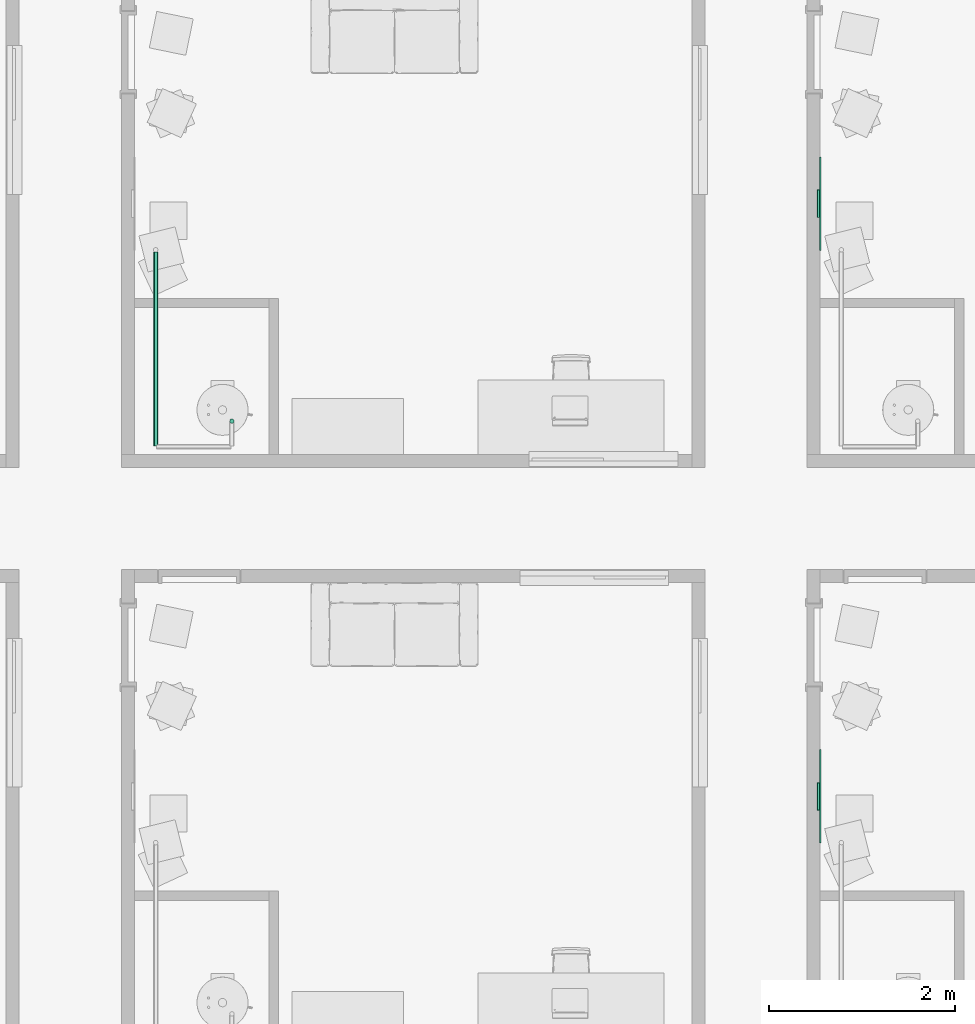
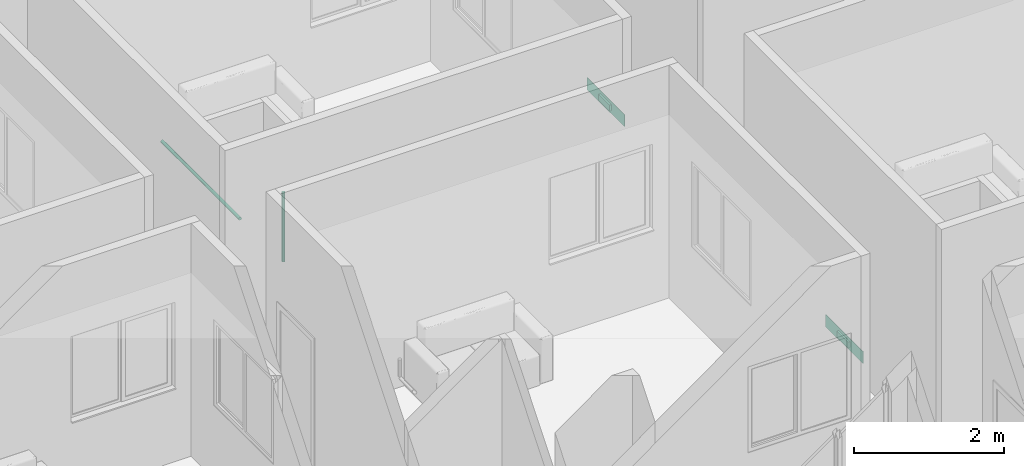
# One storey, part 23 of 71: 2 air terminals, 2 pipe segments.
"""IFC4 building model written with IfcOpenShell, lengths in centimetres."""

from ifc_helpers import new_model, entity, si_unit, converted_unit, derived_unit, direction, frame, origin, place, context, subcontext, project, spatial, arc, indexed_curve, outline, extrude, source, transform, mapped, material, constituent, constituent_set, type_object, type_shapes, element, save


model = new_model("IFC4")

# Units and contexts
model_context = context("Model", 3, precision=0.001, world=origin(), true_north=direction((6.123233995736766e-17, 1.0)))
body_context = subcontext(model_context, "Body", "Model", "MODEL_VIEW")
ifc_project = project(units=[si_unit("LENGTHUNIT", "METRE", prefix="CENTI"), si_unit("AREAUNIT", "SQUARE_METRE"), si_unit("VOLUMEUNIT", "CUBIC_METRE"), derived_unit("THERMALTRANSMITTANCEUNIT", [(si_unit("MASSUNIT", "GRAM", prefix="KILO"), 1), (si_unit("THERMODYNAMICTEMPERATUREUNIT", "KELVIN"), -1), (si_unit("TIMEUNIT", "SECOND"), -3)]), converted_unit("PLANEANGLEUNIT", "DEGREE", entity("IfcPlaneAngleMeasure", 0.017453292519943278), si_unit("PLANEANGLEUNIT", "RADIAN"), dimensions=[0, 0, 0, 0, 0, 0, 0]), derived_unit("MASSDENSITYUNIT", [(si_unit("MASSUNIT", "GRAM", prefix="KILO"), 1), (si_unit("LENGTHUNIT", "METRE"), -3)]), derived_unit("VAPORPERMEABILITYUNIT", [(si_unit("LENGTHUNIT", "METRE"), -1), (si_unit("TIMEUNIT", "SECOND"), 1)]), derived_unit("USERDEFINED", [(si_unit("MASSUNIT", "GRAM", prefix="KILO"), 1), (si_unit("TIMEUNIT", "SECOND"), -3), (si_unit("LENGTHUNIT", "METRE"), 3), (si_unit("ELECTRICCURRENTUNIT", "AMPERE"), -2)]), derived_unit("SPECIFICHEATCAPACITYUNIT", [(si_unit("THERMODYNAMICTEMPERATUREUNIT", "KELVIN"), -1), (si_unit("LENGTHUNIT", "METRE"), 2), (si_unit("TIMEUNIT", "SECOND"), -2)]), derived_unit("THERMALCONDUCTANCEUNIT", [(si_unit("MASSUNIT", "GRAM", prefix="KILO"), 1), (si_unit("THERMODYNAMICTEMPERATUREUNIT", "KELVIN"), -1), (si_unit("TIMEUNIT", "SECOND"), -3), (si_unit("LENGTHUNIT", "METRE"), 1)]), si_unit("PRESSUREUNIT", "PASCAL"), derived_unit("MODULUSOFELASTICITYUNIT", [(si_unit("MASSUNIT", "GRAM", prefix="KILO"), 1), (si_unit("LENGTHUNIT", "METRE"), -1), (si_unit("TIMEUNIT", "SECOND"), -2)]), derived_unit("THERMALEXPANSIONCOEFFICIENTUNIT", [(si_unit("THERMODYNAMICTEMPERATUREUNIT", "KELVIN"), -1)])], contexts=[model_context])

# Site, building, storey, space
site_placement = place(None, origin())
site = spatial("IfcSite", under=ifc_project, at=site_placement, Name="Default", CompositionType="ELEMENT")
building_placement = place(site_placement, origin())
building = spatial("IfcBuilding", under=site, at=building_placement, Name="IDS Escape Game Building", CompositionType="ELEMENT")
storey_placement = place(building_placement, frame((0.0, 0.0, 1200.0)))
storey = spatial("IfcBuildingStorey", under=building, at=storey_placement, Name="03_Third Floor", CompositionType="ELEMENT", Elevation=1200.0)
space_1_placement = place(storey_placement, origin())
space_1 = spatial("IfcSpace", under=storey, at=space_1_placement, Name="116", CompositionType="ELEMENT", PredefinedType="NOTDEFINED")

# Air terminal
ifc_material_1 = material(Name="TB_LVC_referentievlak_00_gen_BERSnl", Category="BE Default")
ifc_constituent_1 = constituent(ifc_material_1, Name="TB_LVC_referentievlak_00_gen_BERSnl", Category="BE Default", fraction=0.00014157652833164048)
ifc_material_2 = material(Name="ARC_FME.h2_staal_00_gen_BERSnl", Category="h - metaal")
ifc_constituent_2 = constituent(ifc_material_2, Name="ARC_FME.h2_staal_00_gen_BERSnl", Category="h - metaal", fraction=0.9998584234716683)
ifc_constituent_set_1 = constituent_set(constituents=[ifc_constituent_1, ifc_constituent_2])
ifc_constituent_3 = constituent(ifc_material_1, Name="BE Referentievlak", Category="BE Default", fraction=0.00014157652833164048)
ifc_constituent_4 = constituent(ifc_material_2, Name="Terminals", Category="h - metaal", fraction=0.9998584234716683)
ifc_constituent_set_2 = constituent_set(constituents=[ifc_constituent_3, ifc_constituent_4])
air_terminal_type = type_object("IfcAirTerminalType", Name="TB_57_AIR_FB_aanzuigrooster - 1 rechthoekige aansluiting - calculated flow_gen_BERSnl:Air Terminal - Exhaust", PredefinedType="GRILLE", material=ifc_constituent_set_2)
shared_shape = source(origin(), body_context, "Body", "SweptSolid", [
    extrude(outline(indexed_curve([(-0.5, -2.0290176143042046e-15), (6.8507733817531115e-16, -0.5000000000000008), (0.5, 2.0290176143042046e-15), (-5.361679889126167e-16, 0.49999999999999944)], segments=[arc(1, 2, 3), arc(3, 4, 1)], self_intersect=False)), frame((0.0, 0.0, 0.0), z_axis=(1.7453292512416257e-05, 0.0, 1.0), x_axis=(0.0, 1.0, 0.0)), (0.0, 0.0, 1.0), 0.09999999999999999),
    extrude(outline(indexed_curve([(-14.900000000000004, -4.9), (14.900000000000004, -4.9), (14.900000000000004, 4.9), (-14.900000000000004, 4.9), (-14.900000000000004, -4.9)], self_intersect=False)), frame((-4.886921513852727e-05, 0.0, -2.7999999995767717)), (0.0, 0.0, 1.0), 2.7999999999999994),
    extrude(outline(indexed_curve([(-50.0, -10.0), (50.0, -10.0), (50.0, 10.0), (-50.0, 10.0), (-50.0, -10.0)], self_intersect=False)), frame((0.0, 0.0, 0.0), z_axis=(0.0, 0.0, 1.0), x_axis=(-1.0, 0.0, 0.0)), (0.0, 0.0, 1.0), 0.6999999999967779),
])
type_shapes(air_terminal_type, [shared_shape])
air_terminal_1_placement = place(space_1_placement, frame((2221.0, 921.0, 24.0), z_axis=(1.0, 0.0, 0.0), x_axis=(0.0, 1.0, 0.0)))
element("IfcAirTerminal", 1, at=air_terminal_1_placement, inside=space_1, type_object=air_terminal_type, material=ifc_constituent_set_1, Name="TB_57_AIR_FB_aanzuigrooster - 1 rechthoekige aansluiting - calculated flow_gen_BERSnl:Air Terminal - Exhaust", ObjectType="TB_57_AIR_FB_aanzuigrooster - 1 rechthoekige aansluiting - calculated flow_gen_BERSnl:Air Terminal - Exhaust", PredefinedType="GRILLE", context=body_context, shape_type="MappedRepresentation", body=[
    mapped(shared_shape, transform((0.0, 0.0, 0.0), scale=1.0)),
])

# Space
space_2_placement = place(storey_placement, origin())
space_2 = spatial("IfcSpace", under=storey, at=space_2_placement, Name="123", CompositionType="ELEMENT", PredefinedType="NOTDEFINED")

# Air terminal
ifc_constituent_5 = constituent(ifc_material_1, Name="TB_LVC_referentievlak_00_gen_BERSnl", Category="BE Default", fraction=0.00014157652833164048)
ifc_constituent_6 = constituent(ifc_material_2, Name="ARC_FME.h2_staal_00_gen_BERSnl", Category="h - metaal", fraction=0.9998584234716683)
ifc_constituent_set_3 = constituent_set(constituents=[ifc_constituent_5, ifc_constituent_6])
air_terminal_2_placement = place(space_2_placement, frame((2221.0, 1559.0, 24.0), z_axis=(1.0, 0.0, 0.0), x_axis=(0.0, 1.0, 0.0)))
element("IfcAirTerminal", 2, at=air_terminal_2_placement, inside=space_2, type_object=air_terminal_type, material=ifc_constituent_set_3, Name="TB_57_AIR_FB_aanzuigrooster - 1 rechthoekige aansluiting - calculated flow_gen_BERSnl:Air Terminal - Exhaust", ObjectType="TB_57_AIR_FB_aanzuigrooster - 1 rechthoekige aansluiting - calculated flow_gen_BERSnl:Air Terminal - Exhaust", PredefinedType="GRILLE", context=body_context, shape_type="MappedRepresentation", body=[
    mapped(shared_shape, transform((0.0, 0.0, 0.0), scale=1.0)),
])

# Pipe segments
pipe_segment_type = type_object("IfcPipeSegmentType", Name="Pipe Types:Piping Aluminum", PredefinedType="NOTDEFINED")
pipe_segment_1_placement = place(storey_placement, origin())
element("IfcPipeSegment", 3, at=pipe_segment_1_placement, inside=storey, type_object=pipe_segment_type, Name="Pipe Types:Piping Aluminum", ObjectType="Pipe Types:Piping Aluminum", PredefinedType="NOTDEFINED", context=body_context, shape_type="SweptSolid", body=[
    extrude(outline(indexed_curve([(2.412999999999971, 0.0), (1.7062486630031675, 1.7062486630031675), (0.0, 2.412999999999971), (-1.7062486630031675, 1.7062486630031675), (-2.412999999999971, 0.0), (-1.7062486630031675, -1.7062486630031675), (0.0, -2.412999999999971), (1.7062486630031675, -1.7062486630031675)], segments=[arc(1, 2, 3), arc(3, 4, 5), arc(5, 6, 7), arc(7, 8, 1)], self_intersect=False)), frame((1588.1500000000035, 1324.9000000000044, 128.0), z_axis=(0.0, 0.0, 1.0), x_axis=(-1.0, 0.0, 0.0)), (0.0, 0.0, 1.0), 112.90000000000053),
])
pipe_segment_2_placement = place(storey_placement, origin())
element("IfcPipeSegment", 4, at=pipe_segment_2_placement, inside=storey, type_object=pipe_segment_type, Name="Pipe Types:Piping Aluminum", ObjectType="Pipe Types:Piping Aluminum", PredefinedType="NOTDEFINED", context=body_context, shape_type="SweptSolid", body=[
    extrude(outline(indexed_curve([(2.412999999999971, 0.0), (1.7062486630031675, 1.7062486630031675), (0.0, 2.412999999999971), (-1.7062486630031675, 1.7062486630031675), (-2.412999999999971, 0.0), (-1.7062486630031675, -1.7062486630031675), (0.0, -2.412999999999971), (1.7062486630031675, -1.7062486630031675)], segments=[arc(1, 2, 3), arc(3, 4, 5), arc(5, 6, 7), arc(7, 8, 1)], self_intersect=False)), frame((1506.0467168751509, 1298.364827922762, 242.0), z_axis=(0.0, 1.0, 0.0), x_axis=(1.0, 0.0, 0.0)), (0.0, 0.0, 1.0), 208.80000000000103),
])

save(model, "model.ifc")
